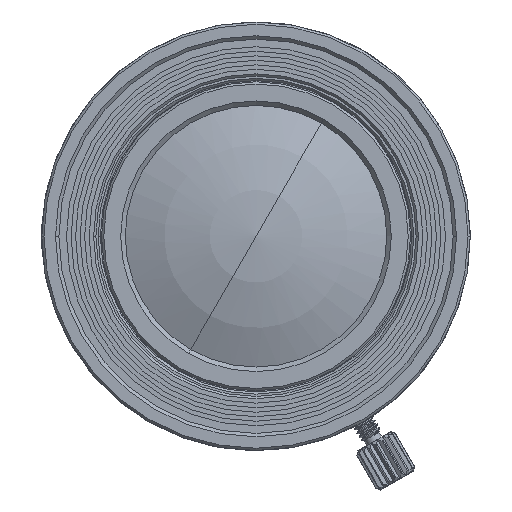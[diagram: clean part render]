
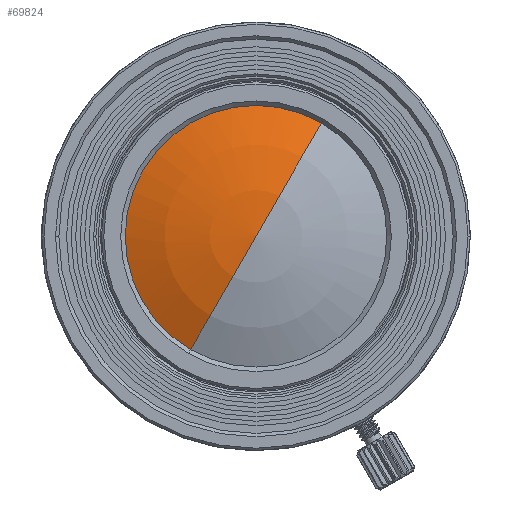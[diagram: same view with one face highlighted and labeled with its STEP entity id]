
A CAD part, left-side view. The second image highlights one B-rep face of the part: STEP entity #69824.
In plain terms, the highlighted spherical face has radius 30.423 mm.
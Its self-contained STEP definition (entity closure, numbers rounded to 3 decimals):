
#69681=CARTESIAN_POINT('',(-9.995,0.,0.));
#69682=DIRECTION('',(0.,0.866,0.5));
#69683=DIRECTION('',(-1.,0.,0.));
#69684=AXIS2_PLACEMENT_3D('',#69681,#69682,#69683);
#69691=CARTESIAN_POINT('',(-9.995,0.,0.));
#69692=DIRECTION('',(0.,0.866,0.5));
#69693=DIRECTION('',(-0.919,0.197,-0.342));
#69694=AXIS2_PLACEMENT_3D('',#69691,#69692,#69693);
#69696=CARTESIAN_POINT('',(-37.951,0.,0.));
#69697=DIRECTION('',(1.,0.,0.));
#69698=DIRECTION('',(0.,0.5,-0.866));
#69699=AXIS2_PLACEMENT_3D('',#69696,#69697,#69698);
#69775=CARTESIAN_POINT('',(-40.418,0.,0.));
#69776=CARTESIAN_POINT('',(-37.951,-6.,10.392));
#69777=VERTEX_POINT('',#69775);
#69778=VERTEX_POINT('',#69776);
#69779=CARTESIAN_POINT('',(-37.951,6.,-10.392));
#69780=VERTEX_POINT('',#69779);
#69813=CARTESIAN_POINT('',(-9.995,0.,0.));
#69814=DIRECTION('',(1.,0.,0.));
#69815=DIRECTION('',(0.,-0.5,0.866));
#69816=AXIS2_PLACEMENT_3D('',#69813,#69814,#69815);
#69817=SPHERICAL_SURFACE('',#69816,30.423);
#69818=ORIENTED_EDGE('',*,*,#69804,.F.);
#69819=ORIENTED_EDGE('',*,*,#69808,.F.);
#69821=ORIENTED_EDGE('',*,*,#69820,.T.);
#69822=EDGE_LOOP('',(#69818,#69819,#69821));
#69823=FACE_OUTER_BOUND('',#69822,.F.);
#69824=ADVANCED_FACE('',(#69823),#69817,.T.);
#69685=CIRCLE('',#69684,30.423);
#69695=CIRCLE('',#69694,30.423);
#69700=CIRCLE('',#69699,12.);
#69804=EDGE_CURVE('',#69777,#69778,#69685,.T.);
#69808=EDGE_CURVE('',#69780,#69777,#69695,.T.);
#69820=EDGE_CURVE('',#69780,#69778,#69700,.T.);
